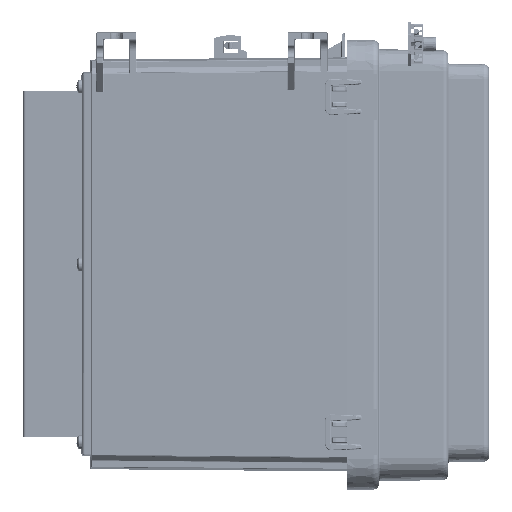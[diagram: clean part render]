
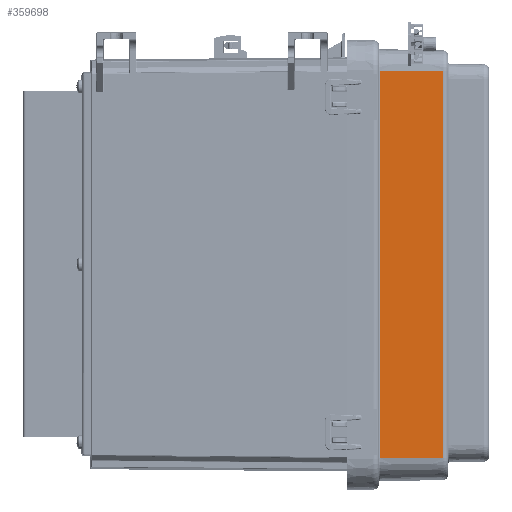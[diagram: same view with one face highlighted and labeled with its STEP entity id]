
A CAD part, front view. The second image highlights one B-rep face of the part: STEP entity #359698.
In plain terms, the highlighted planar face has unit normal (0.018, -1, 0) as drawn and (0, -1, -0.017) by its records, which use the part's own axes.
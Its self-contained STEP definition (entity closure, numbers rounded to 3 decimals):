
#337795=DIRECTION('',(0.,0.017,
-1.));
#337796=VECTOR('',#337795,27.857);
#337797=CARTESIAN_POINT('',(-90.414,-36.566,
28.309));
#337798=LINE('',#337797,#337796);
#337804=DIRECTION('',(-1.,0.,0.));
#337805=VECTOR('',#337804,172.187);
#337806=CARTESIAN_POINT('',(81.772,-36.566,
28.309));
#337807=LINE('',#337806,#337805);
#337808=DIRECTION('',(0.,0.017,-1.));
#337809=VECTOR('',#337808,27.857);
#337810=CARTESIAN_POINT('',(81.772,-36.566,
28.309));
#337811=LINE('',#337810,#337809);
#337812=DIRECTION('',(-1.,0.,0.));
#337813=VECTOR('',#337812,172.187);
#337814=CARTESIAN_POINT('',(81.772,-36.08,
0.456));
#337815=LINE('',#337814,#337813);
#344419=CARTESIAN_POINT('',(-90.414,-36.08,
0.456));
#344420=VERTEX_POINT('',#344419);
#344423=CARTESIAN_POINT('',(81.772,-36.08,
0.456));
#344424=VERTEX_POINT('',#344423);
#344461=CARTESIAN_POINT('',(-90.414,-36.566,
28.309));
#344462=VERTEX_POINT('',#344461);
#344465=CARTESIAN_POINT('',(81.772,-36.566,
28.309));
#344466=VERTEX_POINT('',#344465);
#359686=CARTESIAN_POINT('',(-103.006,-36.575,28.8));
#359687=DIRECTION('',(0.,-1.,-0.017));
#359688=DIRECTION('',(-1.,0.,0.));
#359689=AXIS2_PLACEMENT_3D('',#359686,#359687,#359688);
#359690=PLANE('',#359689);
#359691=ORIENTED_EDGE('',*,*,#357276,.F.);
#359693=ORIENTED_EDGE('',*,*,#359692,.T.);
#359694=ORIENTED_EDGE('',*,*,#359480,.T.);
#359695=ORIENTED_EDGE('',*,*,#359679,.F.);
#359696=EDGE_LOOP('',(#359691,#359693,#359694,#359695));
#359697=FACE_OUTER_BOUND('',#359696,.F.);
#359698=ADVANCED_FACE('',(#359697),#359690,.T.);
#357276=EDGE_CURVE('',#344466,#344462,#337807,.T.);
#359480=EDGE_CURVE('',#344424,#344420,#337815,.T.);
#359679=EDGE_CURVE('',#344462,#344420,#337798,.T.);
#359692=EDGE_CURVE('',#344466,#344424,#337811,.T.);
